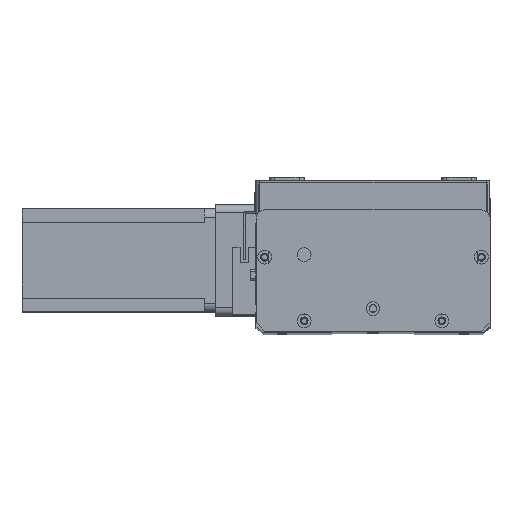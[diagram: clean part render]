
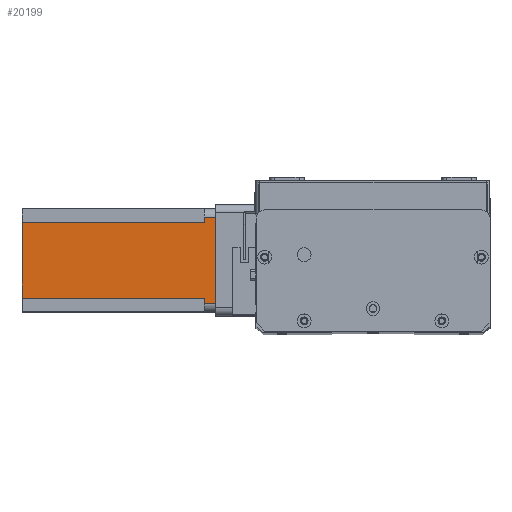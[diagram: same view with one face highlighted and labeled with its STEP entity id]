
A CAD part, top view. The second image highlights one B-rep face of the part: STEP entity #20199.
In plain terms, the highlighted planar face has unit normal (0, 0, 1) as drawn and (0, -1, 0) by its records, which use the part's own axes.
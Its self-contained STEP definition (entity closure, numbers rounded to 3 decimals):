
#689 = ORIENTED_EDGE ( 'NONE', *, *, #12399, .T. ) ;
#757 = CARTESIAN_POINT ( 'NONE',  ( 52., 0., -6.5 ) ) ;
#1812 = VERTEX_POINT ( 'NONE', #3998 ) ;
#2026 = CARTESIAN_POINT ( 'NONE',  ( 55., 0., -112.5 ) ) ;
#2255 = CARTESIAN_POINT ( 'NONE',  ( 8., 0., -6.5 ) ) ;
#2670 = AXIS2_PLACEMENT_3D ( 'NONE', #5217, #7148, #20771 ) ;
#2738 = DIRECTION ( 'NONE',  ( 1., 0., 0. ) ) ;
#3151 = VERTEX_POINT ( 'NONE', #19030 ) ;
#3157 = DIRECTION ( 'NONE',  ( 0., 0., -1. ) ) ;
#3230 = VERTEX_POINT ( 'NONE', #10543 ) ;
#3360 = ORIENTED_EDGE ( 'NONE', *, *, #22052, .F. ) ;
#3812 = VERTEX_POINT ( 'NONE', #8458 ) ;
#3998 = CARTESIAN_POINT ( 'NONE',  ( 52., 0., -112.5 ) ) ;
#4429 = CARTESIAN_POINT ( 'NONE',  ( 8., 0., -112.5 ) ) ;
#4517 = LINE ( 'NONE', #14802, #21275 ) ;
#5217 = CARTESIAN_POINT ( 'NONE',  ( 0., 0., -112.5 ) ) ;
#5368 = VECTOR ( 'NONE', #11973, 1000. ) ;
#5401 = ORIENTED_EDGE ( 'NONE', *, *, #23567, .F. ) ;
#6284 = CARTESIAN_POINT ( 'NONE',  ( 5., 0., 0. ) ) ;
#7148 = DIRECTION ( 'NONE',  ( 0., -1., 0. ) ) ;
#7292 = ORIENTED_EDGE ( 'NONE', *, *, #18161, .F. ) ;
#7541 = LINE ( 'NONE', #19319, #21231 ) ;
#7741 = VECTOR ( 'NONE', #2738, 1000. ) ;
#7830 = VECTOR ( 'NONE', #25263, 1000. ) ;
#7918 = ORIENTED_EDGE ( 'NONE', *, *, #13886, .T. ) ;
#8326 = LINE ( 'NONE', #757, #7741 ) ;
#8427 = LINE ( 'NONE', #15542, #7830 ) ;
#8458 = CARTESIAN_POINT ( 'NONE',  ( 52., 0., -6.5 ) ) ;
#9488 = VECTOR ( 'NONE', #21851, 1000. ) ;
#9910 = LINE ( 'NONE', #14169, #19635 ) ;
#10543 = CARTESIAN_POINT ( 'NONE',  ( 8., 0., -6.5 ) ) ;
#10555 = ORIENTED_EDGE ( 'NONE', *, *, #16321, .T. ) ;
#10625 = ORIENTED_EDGE ( 'NONE', *, *, #20550, .T. ) ;
#10834 = ORIENTED_EDGE ( 'NONE', *, *, #24397, .F. ) ;
#10900 = PLANE ( 'NONE',  #2670 ) ;
#11383 = EDGE_LOOP ( 'NONE', ( #689, #7918, #10834, #10555, #7292, #5401, #10625, #3360 ) ) ;
#11973 = DIRECTION ( 'NONE',  ( -1., 0., 0. ) ) ;
#12399 = EDGE_CURVE ( 'NONE', #3812, #3151, #8326, .T. ) ;
#13886 = EDGE_CURVE ( 'NONE', #3151, #16377, #20121, .T. ) ;
#14169 = CARTESIAN_POINT ( 'NONE',  ( 0., 0., 0. ) ) ;
#14802 = CARTESIAN_POINT ( 'NONE',  ( 52., 0., -112.5 ) ) ;
#14958 = VECTOR ( 'NONE', #19555, 1000. ) ;
#15542 = CARTESIAN_POINT ( 'NONE',  ( 5., 0., -112.5 ) ) ;
#16114 = DIRECTION ( 'NONE',  ( 1., 0., 0. ) ) ;
#16285 = LINE ( 'NONE', #2255, #5368 ) ;
#16321 = EDGE_CURVE ( 'NONE', #22443, #24539, #8427, .T. ) ;
#16377 = VERTEX_POINT ( 'NONE', #19604 ) ;
#18161 = EDGE_CURVE ( 'NONE', #3230, #24539, #16285, .T. ) ;
#19030 = CARTESIAN_POINT ( 'NONE',  ( 55., 0., -6.5 ) ) ;
#19223 = LINE ( 'NONE', #19870, #9488 ) ;
#19319 = CARTESIAN_POINT ( 'NONE',  ( 8., 0., -112.5 ) ) ;
#19555 = DIRECTION ( 'NONE',  ( 0., 0., 1. ) ) ;
#19604 = CARTESIAN_POINT ( 'NONE',  ( 55., 0., 0. ) ) ;
#19635 = VECTOR ( 'NONE', #16114, 1000. ) ;
#19870 = CARTESIAN_POINT ( 'NONE',  ( 0., 0., -112.5 ) ) ;
#20121 = LINE ( 'NONE', #2026, #14958 ) ;
#20199 = ADVANCED_FACE ( 'NONE', ( #21979 ), #10900, .T. ) ;
#20550 = EDGE_CURVE ( 'NONE', #23755, #1812, #19223, .T. ) ;
#20771 = DIRECTION ( 'NONE',  ( 0., 0., -1. ) ) ;
#21231 = VECTOR ( 'NONE', #21374, 1000. ) ;
#21275 = VECTOR ( 'NONE', #3157, 1000. ) ;
#21374 = DIRECTION ( 'NONE',  ( 0., 0., 1. ) ) ;
#21851 = DIRECTION ( 'NONE',  ( 1., 0., 0. ) ) ;
#21979 = FACE_OUTER_BOUND ( 'NONE', #11383, .T. ) ;
#22052 = EDGE_CURVE ( 'NONE', #3812, #1812, #4517, .T. ) ;
#22443 = VERTEX_POINT ( 'NONE', #6284 ) ;
#23567 = EDGE_CURVE ( 'NONE', #23755, #3230, #7541, .T. ) ;
#23755 = VERTEX_POINT ( 'NONE', #4429 ) ;
#24301 = CARTESIAN_POINT ( 'NONE',  ( 5., 0., -6.5 ) ) ;
#24397 = EDGE_CURVE ( 'NONE', #22443, #16377, #9910, .T. ) ;
#24539 = VERTEX_POINT ( 'NONE', #24301 ) ;
#25263 = DIRECTION ( 'NONE',  ( 0., 0., -1. ) ) ;
